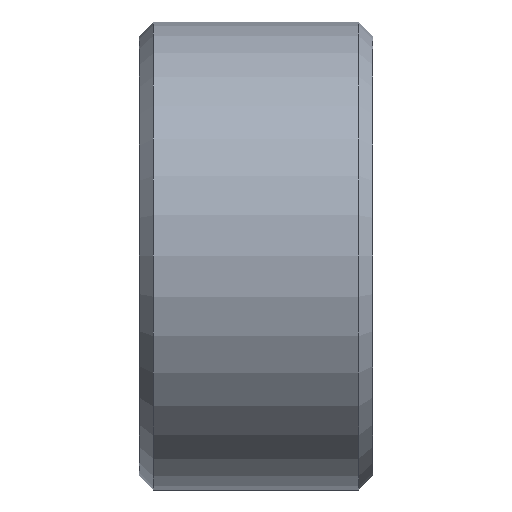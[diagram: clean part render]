
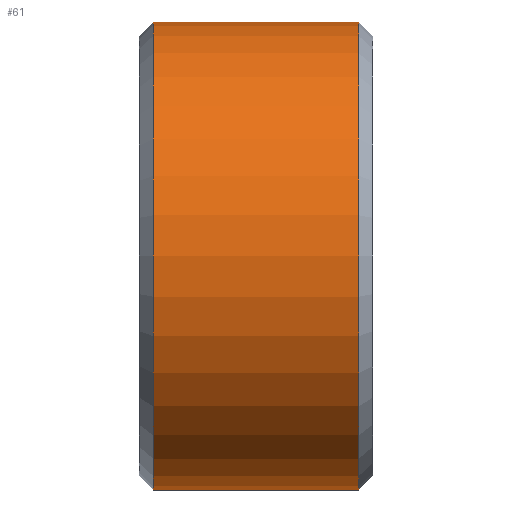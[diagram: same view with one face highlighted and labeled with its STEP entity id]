
A CAD part, front view. The second image highlights one B-rep face of the part: STEP entity #61.
In plain terms, the highlighted cylindrical face has radius 5 mm (diameter 10 mm), a partial arc.
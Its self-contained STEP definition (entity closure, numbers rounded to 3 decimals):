
#4 = AXIS2_PLACEMENT_3D ( 'NONE', #244, #246, #162 ) ;
#18 = LINE ( 'NONE', #243, #107 ) ;
#32 = ORIENTED_EDGE ( 'NONE', *, *, #312, .F. ) ;
#35 = ORIENTED_EDGE ( 'NONE', *, *, #307, .F. ) ;
#36 = ORIENTED_EDGE ( 'NONE', *, *, #313, .T. ) ;
#38 = ORIENTED_EDGE ( 'NONE', *, *, #310, .T. ) ;
#43 = VECTOR ( 'NONE', #273, 1000. ) ;
#61 = ADVANCED_FACE ( 'NONE', ( #99 ), #98, .T. ) ;
#71 = LINE ( 'NONE', #269, #43 ) ;
#98 = CYLINDRICAL_SURFACE ( 'NONE', #124, 5. ) ;
#99 = FACE_OUTER_BOUND ( 'NONE', #289, .T. ) ;
#107 = VECTOR ( 'NONE', #237, 1000. ) ;
#110 = CIRCLE ( 'NONE', #4, 5. ) ;
#111 = CIRCLE ( 'NONE', #128, 5. ) ;
#124 = AXIS2_PLACEMENT_3D ( 'NONE', #183, #203, #195 ) ;
#128 = AXIS2_PLACEMENT_3D ( 'NONE', #241, #160, #158 ) ;
#158 = DIRECTION ( 'NONE',  ( 0., 0., 1. ) ) ;
#160 = DIRECTION ( 'NONE',  ( -1., 0., 0. ) ) ;
#162 = DIRECTION ( 'NONE',  ( 0., 0., 1. ) ) ;
#183 = CARTESIAN_POINT ( 'NONE',  ( -43.613, 0., 0. ) ) ;
#188 = VERTEX_POINT ( 'NONE', #226 ) ;
#190 = VERTEX_POINT ( 'NONE', #223 ) ;
#195 = DIRECTION ( 'NONE',  ( 0., 0., 1. ) ) ;
#203 = DIRECTION ( 'NONE',  ( -1., 0., 0. ) ) ;
#213 = VERTEX_POINT ( 'NONE', #227 ) ;
#216 = VERTEX_POINT ( 'NONE', #229 ) ;
#223 = CARTESIAN_POINT ( 'NONE',  ( -4.7, 0., -5. ) ) ;
#226 = CARTESIAN_POINT ( 'NONE',  ( -4.7, 0., 5. ) ) ;
#227 = CARTESIAN_POINT ( 'NONE',  ( -0.3, 0., -5. ) ) ;
#229 = CARTESIAN_POINT ( 'NONE',  ( -0.3, 0., 5. ) ) ;
#237 = DIRECTION ( 'NONE',  ( -1., 0., 0. ) ) ;
#241 = CARTESIAN_POINT ( 'NONE',  ( -0.3, 0., 0. ) ) ;
#243 = CARTESIAN_POINT ( 'NONE',  ( -43.613, 0., 5. ) ) ;
#244 = CARTESIAN_POINT ( 'NONE',  ( -4.7, 0., 0. ) ) ;
#246 = DIRECTION ( 'NONE',  ( -1., 0., 0. ) ) ;
#269 = CARTESIAN_POINT ( 'NONE',  ( -43.613, 0., -5. ) ) ;
#273 = DIRECTION ( 'NONE',  ( -1., 0., 0. ) ) ;
#289 = EDGE_LOOP ( 'NONE', ( #35, #36, #38, #32 ) ) ;
#307 = EDGE_CURVE ( 'NONE', #213, #190, #71, .T. ) ;
#310 = EDGE_CURVE ( 'NONE', #216, #188, #18, .T. ) ;
#312 = EDGE_CURVE ( 'NONE', #190, #188, #110, .T. ) ;
#313 = EDGE_CURVE ( 'NONE', #213, #216, #111, .T. ) ;
